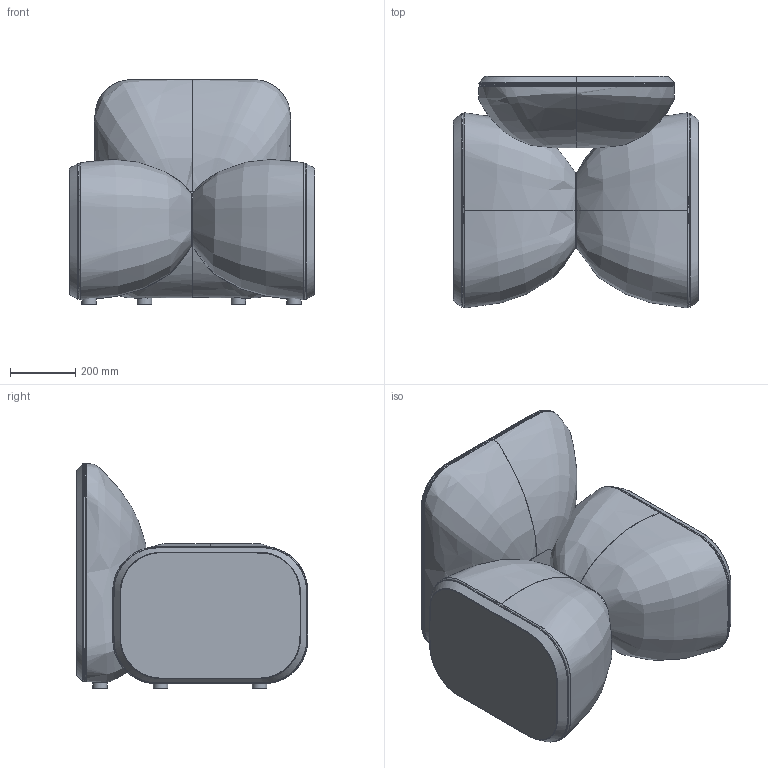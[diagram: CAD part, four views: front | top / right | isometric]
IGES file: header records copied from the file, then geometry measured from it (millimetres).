
Global section: file name: C:\Users\market02\Desktop\RYAN\kiss\FKISSGU062_GUERIDON_PEDESTAL TABLE_KISS\FKISSGU062_GUERIDON_PEDESTAL TABLE_KISS.igs; native system: Rhinoceros ( Dec 14 2021 ); preprocessor: Trout Lake IGES 012 Dec 14 2021; date: 220902.140205; units: millimetre
Bounding box: 755.2 x 711.99 x 690.21 mm (x, y, z)
Surface area: 4081624.6 mm2 (no closed solid volume)
Topology: 0 solids, 0 shells, 99 faces, 1616 edges, 1606 vertices
Faces by surface type: bspline 99
